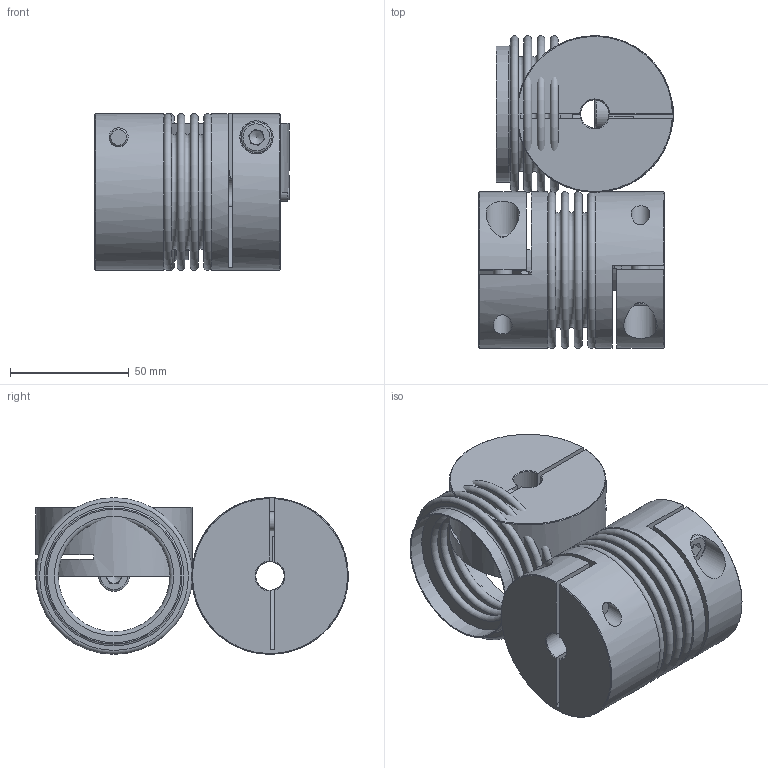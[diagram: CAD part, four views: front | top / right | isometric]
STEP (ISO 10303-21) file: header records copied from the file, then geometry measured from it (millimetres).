
FILE_DESCRIPTION( ( 'Unknown' ), '1' );
FILE_NAME( 'C:/Dokumente und Einstellungen/Sven/Desktop/cad - homepage/KB4/KB4-60-79.stp', 'Unknown', ( 'Unknown' ), ( 'Unknown' ), 'XStep 1.0', 'Unknown', ' ' );
FILE_SCHEMA( ( 'automotive_design' ) );
Length unit declared in the file: millimetre
Products named in the file (4): Assem1; KN60_Standard; BK60_Standard; Socket Head Cap Screw_DIN_DIN 912 M8 x 25 --- 25N
Bounding box: 81.83 x 131.74 x 66 mm (x, y, z)
Volume: 283428.5 mm3; surface area: 123934.4 mm2
Topology: 8 solids, 8 shells, 202 faces, 427 edges, 276 vertices
Faces by surface type: plane 111, cylinder 38, torus 38, cone 15
Full cylindrical faces by diameter (mm): 8 x6, 8.5 x3, 12 x3, 13 x3, 14 x3, 56.3 x4, 57.3 x4, 66 x3
Entity records: 2466 total; most frequent: CARTESIAN_POINT 488, DIRECTION 363, ORIENTED_EDGE 250, AXIS2_PLACEMENT_3D 159, EDGE_LOOP 136, EDGE_CURVE 125, FACE_OUTER_BOUND 109, VERTEX_POINT 100
